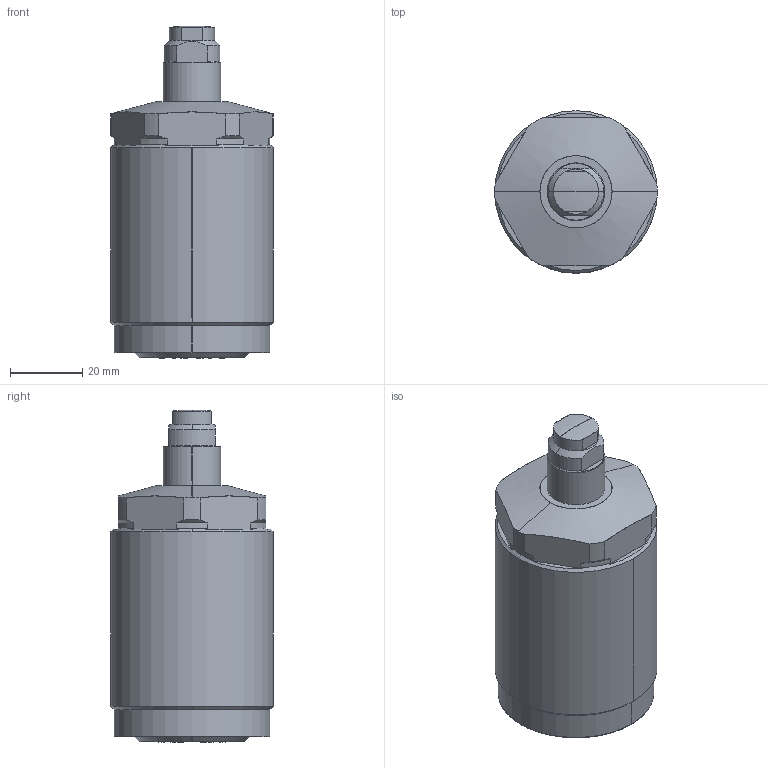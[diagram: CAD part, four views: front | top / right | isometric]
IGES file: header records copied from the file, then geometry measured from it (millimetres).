
Start section: SolidWorks IGES file using analytic representation for surfaces
Global section: file name: C:\Documents and Settings\nijil\My Documents\Clasys1\LDE Series\45\LD0452-x-E.IGS; native system: SolidWorks 2010; preprocessor: SolidWorks 2010; author: nijil; date: 130723.110213; units: millimetre
Bounding box: 45 x 45 x 92 mm (x, y, z)
Surface area: 13809.9 mm2 (no closed solid volume)
Topology: 0 solids, 0 shells, 95 faces, 1038 edges, 1036 vertices
Faces by surface type: revolution 51, bspline 44
